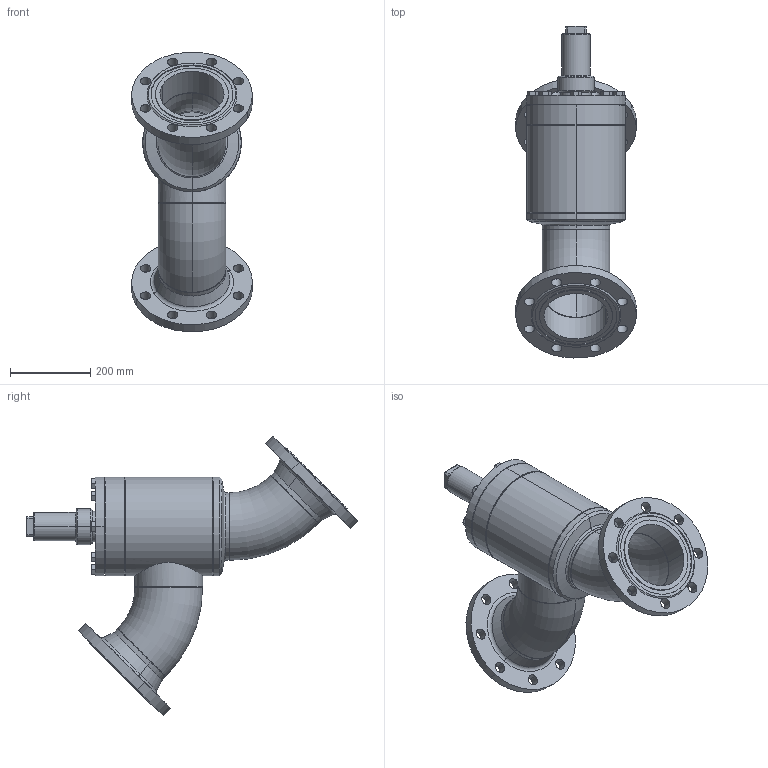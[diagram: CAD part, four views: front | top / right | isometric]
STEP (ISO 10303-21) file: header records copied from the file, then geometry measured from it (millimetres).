
FILE_DESCRIPTION (( 'STEP AP214' ), '1' );
FILE_NAME ('RVAK27320D21-DN150_DIN-FL-N_PS40.STEP', '2006-04-27T14:00:21', ( 'Herr Grams' ), ( 'AWP GmbH' ), 'SwSTEP 2.0', 'SolidWorks 2002296', '' );
FILE_SCHEMA (( 'AUTOMOTIVE_DESIGN' ));
Length unit declared in the file: millimetre
Products named in the file (19): RVAK27320D21-DN150_DIN-FL-N_PS40; Gehäuse-kpl16320-DN150_DIN_PS40_Standard; Flansch-DIN-Nut_PS40_DIN-Flansch-DN150_PS40-Nut; Gehäuse-kpl16300-DN150_R1_Standard; Boden16300-DN150_Standard; Gehäuse16300-DN150_Standard; Kopfstück16300-DN150_Standard; Rohrstutzen-A16300-DN150_R1_Standard; bead-DN150-2_Standard; bead-DN150-3_Standard; bead-DN150-4_Standard; bead-DN150-1_Standard; Rohrbogen 45°_Rohrbogen-DN150-45°; bead-DN150-7_Standard; bead-DN150-6_Standard; RVA29300E21_Deck-Schr-DN150_Standard; Deckel29300E21-DN150_Standard; Sechskantschraube-DIN933_M16x 45; Kappe16402_DN125-150_Standard
Assembly tree (29 placements, depth 4):
  RVAK27320D21-DN150_DIN-FL-N_PS40
    Kappe16402_DN125-150_Standard
    RVA29300E21_Deck-Schr-DN150_Standard
      Sechskantschraube-DIN933_M16x 45  x8
      Deckel29300E21-DN150_Standard
    Gehäuse-kpl16320-DN150_DIN_PS40_Standard
      bead-DN150-6_Standard
      Gehäuse-kpl16300-DN150_R1_Standard
        bead-DN150-2_Standard
        bead-DN150-1_Standard  x2
        Boden16300-DN150_Standard
        bead-DN150-4_Standard  x2
        Rohrbogen 45°_Rohrbogen-DN150-45°  x2
        bead-DN150-3_Standard
        Gehäuse16300-DN150_Standard
        Rohrstutzen-A16300-DN150_R1_Standard
        Kopfstück16300-DN150_Standard
      Flansch-DIN-Nut_PS40_DIN-Flansch-DN150_PS40-Nut  x2
      bead-DN150-7_Standard
Bounding box: 299.71 x 825.51 x 695.17 mm (x, y, z)
Volume: 9868186 mm3; surface area: 1787419.8 mm2
Topology: 26 solids, 26 shells, 465 faces, 1026 edges, 622 vertices
Faces by surface type: cylinder 141, plane 134, cone 134, bspline 32, torus 24
Entity records: 11050 total; most frequent: CARTESIAN_POINT 4837, DIRECTION 1162, ORIENTED_EDGE 1044, EDGE_CURVE 522, AXIS2_PLACEMENT_3D 511, VERTEX_POINT 324, EDGE_LOOP 298, CIRCLE 266
